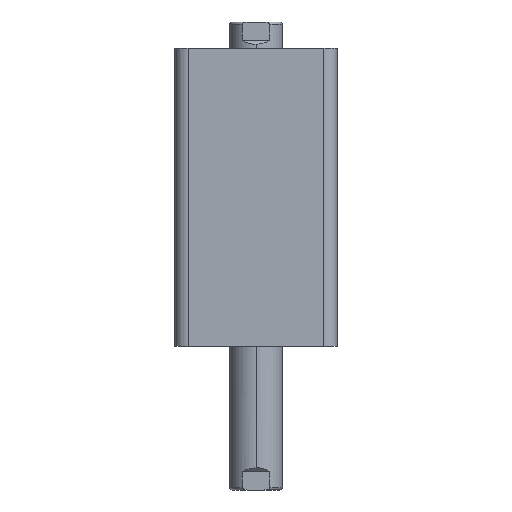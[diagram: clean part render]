
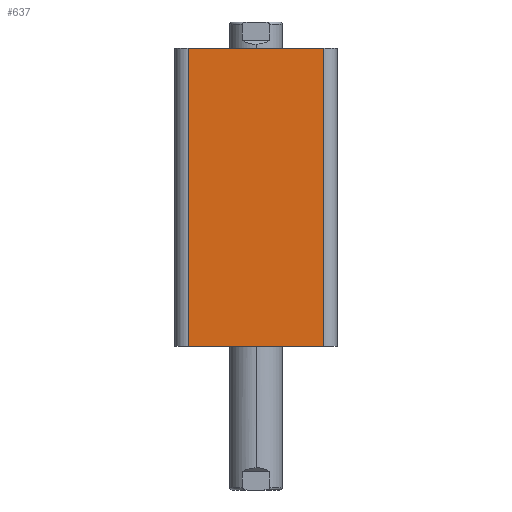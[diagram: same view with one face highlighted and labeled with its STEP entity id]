
A CAD part, left-side view. The second image highlights one B-rep face of the part: STEP entity #637.
In plain terms, the highlighted planar face has unit normal (-1, 0, 0).
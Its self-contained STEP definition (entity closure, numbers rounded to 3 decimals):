
#216 = EDGE_CURVE ( 'NONE', #946, #938, #1724, .T. ) ;
#217 = EDGE_CURVE ( 'NONE', #946, #945, #1720, .T. ) ;
#218 = EDGE_CURVE ( 'NONE', #941, #945, #1728, .T. ) ;
#219 = EDGE_CURVE ( 'NONE', #938, #941, #1730, .T. ) ;
#372 = CARTESIAN_POINT ( 'NONE',  ( -31., 31., 114. ) ) ;
#380 = PLANE ( 'NONE',  #2773 ) ;
#382 = DIRECTION ( 'NONE',  ( 1., 0., 0. ) ) ;
#383 = DIRECTION ( 'NONE',  ( 0., 1., 0. ) ) ;
#637 = ADVANCED_FACE ( 'NONE', ( #1362 ), #380, .F. ) ;
#709 = ORIENTED_EDGE ( 'NONE', *, *, #219, .T. ) ;
#712 = ORIENTED_EDGE ( 'NONE', *, *, #217, .F. ) ;
#714 = ORIENTED_EDGE ( 'NONE', *, *, #216, .T. ) ;
#715 = ORIENTED_EDGE ( 'NONE', *, *, #218, .T. ) ;
#787 = EDGE_LOOP ( 'NONE', ( #709, #715, #712, #714 ) ) ;
#938 = VERTEX_POINT ( 'NONE', #2964 ) ;
#941 = VERTEX_POINT ( 'NONE', #2967 ) ;
#945 = VERTEX_POINT ( 'NONE', #2971 ) ;
#946 = VERTEX_POINT ( 'NONE', #2972 ) ;
#1362 = FACE_OUTER_BOUND ( 'NONE', #787, .T. ) ;
#1720 = LINE ( 'NONE', #2483, #1729 ) ;
#1724 = LINE ( 'NONE', #2489, #1727 ) ;
#1727 = VECTOR ( 'NONE', #2491, 1000. ) ;
#1728 = LINE ( 'NONE', #2493, #1731 ) ;
#1729 = VECTOR ( 'NONE', #2492, 1000. ) ;
#1730 = LINE ( 'NONE', #2495, #1733 ) ;
#1731 = VECTOR ( 'NONE', #2494, 1000. ) ;
#1733 = VECTOR ( 'NONE', #2496, 1000. ) ;
#2483 = CARTESIAN_POINT ( 'NONE',  ( -31., 31., 114. ) ) ;
#2489 = CARTESIAN_POINT ( 'NONE',  ( -31., 26., 114. ) ) ;
#2491 = DIRECTION ( 'NONE',  ( 0., 0., -1. ) ) ;
#2492 = DIRECTION ( 'NONE',  ( 0., -1., 0. ) ) ;
#2493 = CARTESIAN_POINT ( 'NONE',  ( -31., -26., 114. ) ) ;
#2494 = DIRECTION ( 'NONE',  ( 0., 0., 1. ) ) ;
#2495 = CARTESIAN_POINT ( 'NONE',  ( -31., 31., 0. ) ) ;
#2496 = DIRECTION ( 'NONE',  ( 0., -1., 0. ) ) ;
#2773 = AXIS2_PLACEMENT_3D ( 'NONE', #372, #382, #383 ) ;
#2964 = CARTESIAN_POINT ( 'NONE',  ( -31., 26., 0. ) ) ;
#2967 = CARTESIAN_POINT ( 'NONE',  ( -31., -26., 0. ) ) ;
#2971 = CARTESIAN_POINT ( 'NONE',  ( -31., -26., 114. ) ) ;
#2972 = CARTESIAN_POINT ( 'NONE',  ( -31., 26., 114. ) ) ;
